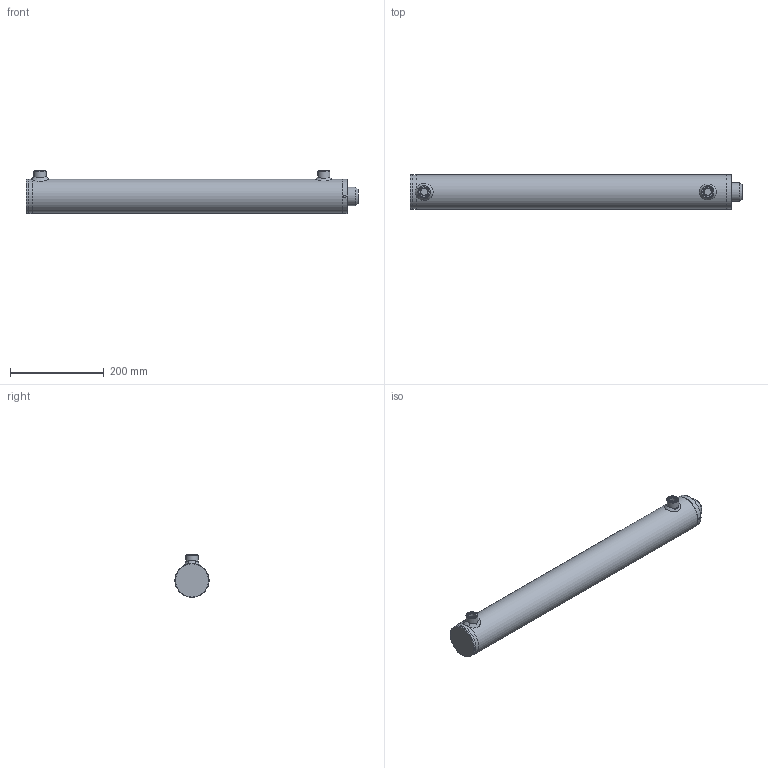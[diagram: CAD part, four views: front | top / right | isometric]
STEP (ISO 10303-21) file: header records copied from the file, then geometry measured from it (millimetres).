
FILE_DESCRIPTION( ( 'Unknown' ), '1' );
FILE_NAME( 'E:/LIBRERIA_3d/CILINDRI/HM0/HM0063400550.stp', 'Unknown', ( 'Unknown' ), ( 'Unknown' ), 'PSStep 17.0.49', 'Unknown', ' ' );
FILE_SCHEMA( ( 'AUTOMOTIVE_DESIGN { 1 0 10303 214 1 1 1 1 }' ) );
Length unit declared in the file: millimetre
Products named in the file (18): CT00063024; STL0630730550-oa4; Saldatura d'angolo 1-oa2; CBS0600000; MAT_PRIMA_TUBO_FT07306300-oa3; CG07306340; Assem1; Saldatura con preparazione 1-oa0; Saldatura d'angolo 1-oa1; CF00063073; CDA0002420; APG0600000; SBL0400630550
Assembly tree (15 placements, depth 3):
  Saldatura d'angolo 1-oa2
  Saldatura d'angolo 1-oa2
  Assem1
    Saldatura con preparazione 1-oa0
    Saldatura con preparazione 1-oa0
    CBS0600000
    CF00063073
    CDA0002420
    APG0600000  x2
    SBL0400630550
    CG07306340
      CG07306340
    CT00063024
      CT00063024
    STL0630730550-oa4
      CBS0600000
      MAT_PRIMA_TUBO_FT07306300-oa3
  Saldatura d'angolo 1-oa1
  Saldatura d'angolo 1-oa1
Bounding box: 710 x 73 x 92 mm (x, y, z)
Volume: 1790982.2 mm3; surface area: 458675.6 mm2
Topology: 16 solids, 16 shells, 202 faces, 412 edges, 255 vertices
Faces by surface type: plane 58, cylinder 55, torus 38, cone 33, bspline 18
Full cylindrical faces by diameter (mm): 4.25 x1, 5 x2, 6 x2, 7 x2, 14.95 x2, 16 x2, 16.6 x2, 22 x2, 23.4 x1, 24 x5, 26 x2, 28.5 x1, 36 x1, 40 x4, 42 x1, 43 x1, 47 x1, 48 x1, 48.6 x1, 58 x1, 58.39 x2, 61.63 x2, 62.9 x1, 63 x1, 63.8 x1, 64 x1, 64.1 x1, 65 x4, 66.376 x1, 68 x1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
Entity records: 8380 total; most frequent: CARTESIAN_POINT 3645, DIRECTION 714, ORIENTED_EDGE 434, AXIS2_PLACEMENT_3D 345, EDGE_LOOP 344, FACE_OUTER_BOUND 277, EDGE_CURVE 217, VERTEX_POINT 196
